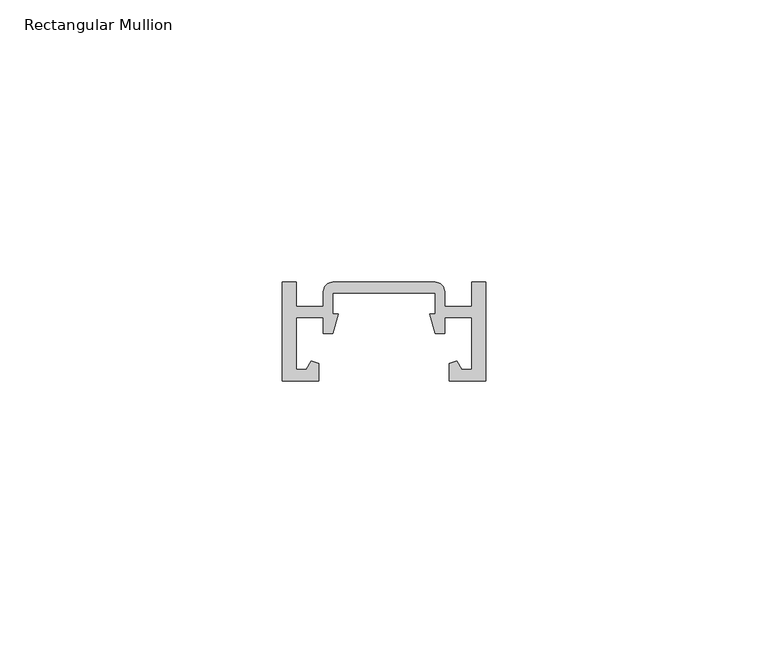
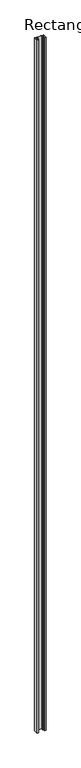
"""IFC4 building model written with IfcOpenShell, lengths in millimetres: member geometry, Rectangular Mullion : LD.0195_renson."""

from ifc_helpers import new_model, si_unit, point, frame, frame_2d, origin, place, context, project, spatial, polyline, circle_curve, trimmed, segment, composite_curve, outline, extrude, source, transform, mapped, element, save


def rectangular_mullion_e1f482b2(model_context):
    return source(origin(), model_context, "Body", "SweptSolid", [
        extrude(outline(composite_curve([segment(polyline([(18.0, -1.0), (18.0, -18.5), (11.5590009, -18.5), (11.5590009, -15.3784461), (12.8707181, -14.9977014), (13.7252094, -16.4777239), (15.5290062, -16.4777239), (15.5290062, -7.3100862), (10.7447259, -7.3100862), (10.7447259, -10.0899542), (9.0577975, -10.0899542), (8.0577975, -6.6448186), (9.0577975, -6.6448186), (9.0577975, -2.9178188), (-9.0577975, -2.9178188), (-9.0577975, -6.6448186), (-8.0577975, -6.6448186), (-9.0577975, -10.0899542), (-10.7447259, -10.0899542), (-10.7447259, -7.3100862), (-15.5290062, -7.3100862), (-15.5290062, -16.4777239), (-13.7252094, -16.4777239), (-12.8707181, -14.9977014), (-11.5590009, -15.3784461), (-11.5590009, -18.5), (-18.0, -18.5), (-18.0, -1.0), (-15.5290062, -1.0), (-15.5290062, -5.3142835), (-10.7447259, -5.3142835), (-10.7447259, -2.6869285)]), True, "CONTINUOUS"), segment(trimmed(circle_curve(frame_2d((-9.0577975, -2.6869285)), 1.6869285), [point((-10.7447259, -2.6869285))], [point((-9.0577975, -1.0))], False, "CARTESIAN"), True, "CONTINUOUS"), segment(polyline([(-9.0577975, -1.0), (9.0577975, -1.0)]), True, "CONTINUOUS"), segment(trimmed(circle_curve(frame_2d((9.0577975, -2.6869285)), 1.6869285), [point((9.0577975, -1.0))], [point((10.7447259, -2.6869285))], False, "CARTESIAN"), True, "CONTINUOUS"), segment(polyline([(10.7447259, -2.6869285), (10.7447259, -5.3142835), (15.5290062, -5.3142835), (15.5290062, -1.0), (18.0, -1.0)]), True, "CONTINUOUS")], self_intersect=False)), frame((0.0, 0.0, -3000.0), z_axis=(0.0, 0.0, 1.0), x_axis=(1.0, 0.0, 0.0)), (0.0, 0.0, 1.0), 3000.0),
    ])


if __name__ == "__main__":
    model = new_model("IFC4")
    model_context = context("Model", 3, world=origin())
    ifc_project = project(units=[si_unit("LENGTHUNIT", "METRE", prefix="MILLI")], contexts=[model_context])
    site = spatial("IfcSite", under=ifc_project)
    building = spatial("IfcBuilding", under=site)
    placement = place(None, origin())
    rectangular_mullion_shape = rectangular_mullion_e1f482b2(model_context)
    element("IfcMember", 1, ObjectType="Rectangular Mullion : LD.0195_renson", at=placement, inside=building, context=model_context, shape_type="MappedRepresentation", body=[
        mapped(rectangular_mullion_shape, transform((0.0, 0.0, 0.0), x_axis=(1.0, 0.0, 0.0), y_axis=(0.0, 1.0, 0.0), z_axis=(0.0, 0.0, 1.0))),
    ])
    save(model, "model.ifc")
